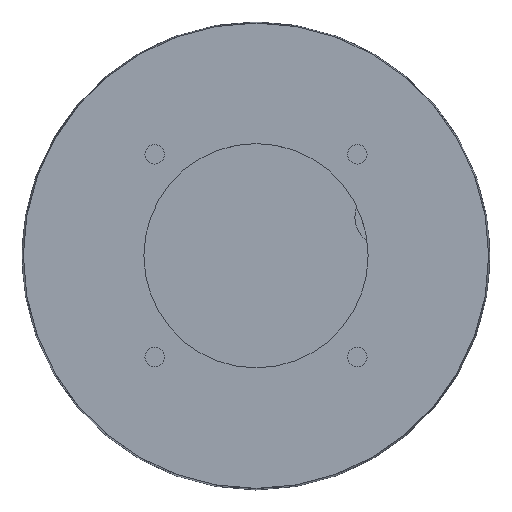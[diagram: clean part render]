
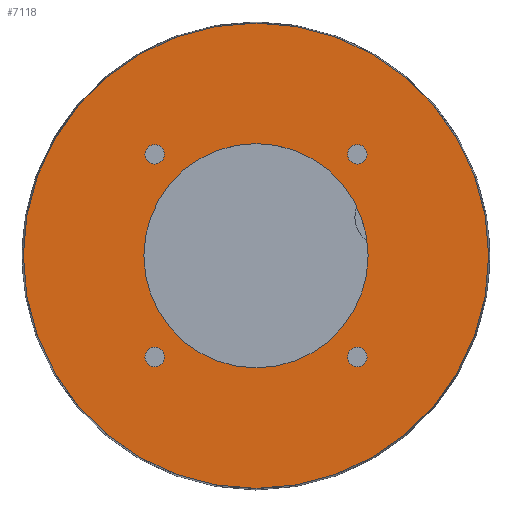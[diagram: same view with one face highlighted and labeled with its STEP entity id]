
A CAD part, top view. The second image highlights one B-rep face of the part: STEP entity #7118.
In plain terms, the highlighted planar face has unit normal (0, 0, 1) as drawn and (0, 0, -1) by its records, which use the part's own axes.
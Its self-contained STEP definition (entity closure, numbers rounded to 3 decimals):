
#6266=CARTESIAN_POINT('',(0.,0.,-48.));
#6267=DIRECTION('',(0.,0.,1.));
#6268=DIRECTION('',(1.,0.,0.));
#6269=AXIS2_PLACEMENT_3D('',#6266,#6267,#6268);
#6271=CARTESIAN_POINT('',(0.,0.,-48.));
#6272=DIRECTION('',(0.,0.,1.));
#6273=DIRECTION('',(-1.,0.,0.));
#6274=AXIS2_PLACEMENT_3D('',#6271,#6272,#6273);
#6276=CARTESIAN_POINT('',(0.,0.,-48.));
#6277=DIRECTION('',(0.,0.,-1.));
#6278=DIRECTION('',(1.,0.,0.));
#6279=AXIS2_PLACEMENT_3D('',#6276,#6277,#6278);
#6281=CARTESIAN_POINT('',(0.,0.,-48.));
#6282=DIRECTION('',(0.,0.,-1.));
#6283=DIRECTION('',(0.,-1.,0.));
#6284=AXIS2_PLACEMENT_3D('',#6281,#6282,#6283);
#6286=CARTESIAN_POINT('',(0.,0.,-48.));
#6287=DIRECTION('',(0.,0.,-1.));
#6288=DIRECTION('',(-1.,0.,0.));
#6289=AXIS2_PLACEMENT_3D('',#6286,#6287,#6288);
#6291=CARTESIAN_POINT('',(0.,0.,-48.));
#6292=DIRECTION('',(0.,0.,-1.));
#6293=DIRECTION('',(0.,1.,0.));
#6294=AXIS2_PLACEMENT_3D('',#6291,#6292,#6293);
#6296=CARTESIAN_POINT('',(-25.986,25.986,-48.));
#6297=DIRECTION('',(0.,0.,-1.));
#6298=DIRECTION('',(-1.,0.,0.));
#6299=AXIS2_PLACEMENT_3D('',#6296,#6297,#6298);
#6301=CARTESIAN_POINT('',(-25.986,25.986,-48.));
#6302=DIRECTION('',(0.,0.,-1.));
#6303=DIRECTION('',(1.,0.,0.));
#6304=AXIS2_PLACEMENT_3D('',#6301,#6302,#6303);
#6306=CARTESIAN_POINT('',(-25.986,-25.986,-48.));
#6307=DIRECTION('',(0.,0.,-1.));
#6308=DIRECTION('',(0.,-1.,0.));
#6309=AXIS2_PLACEMENT_3D('',#6306,#6307,#6308);
#6311=CARTESIAN_POINT('',(-25.986,-25.986,-48.));
#6312=DIRECTION('',(0.,0.,-1.));
#6313=DIRECTION('',(0.,1.,0.));
#6314=AXIS2_PLACEMENT_3D('',#6311,#6312,#6313);
#6316=CARTESIAN_POINT('',(25.986,-25.986,-48.));
#6317=DIRECTION('',(0.,0.,-1.));
#6318=DIRECTION('',(1.,0.,0.));
#6319=AXIS2_PLACEMENT_3D('',#6316,#6317,#6318);
#6321=CARTESIAN_POINT('',(25.986,-25.986,-48.));
#6322=DIRECTION('',(0.,0.,-1.));
#6323=DIRECTION('',(-1.,0.,0.));
#6324=AXIS2_PLACEMENT_3D('',#6321,#6322,#6323);
#6326=CARTESIAN_POINT('',(25.986,25.986,-48.));
#6327=DIRECTION('',(0.,0.,-1.));
#6328=DIRECTION('',(0.,1.,0.));
#6329=AXIS2_PLACEMENT_3D('',#6326,#6327,#6328);
#6331=CARTESIAN_POINT('',(25.986,25.986,-48.));
#6332=DIRECTION('',(0.,0.,-1.));
#6333=DIRECTION('',(0.,-1.,0.));
#6334=AXIS2_PLACEMENT_3D('',#6331,#6332,#6333);
#6483=CARTESIAN_POINT('',(-59.668,0.,-48.));
#6484=VERTEX_POINT('',#6483);
#6485=CARTESIAN_POINT('',(59.668,0.,-48.));
#6486=VERTEX_POINT('',#6485);
#6539=CARTESIAN_POINT('',(0.,-28.75,-48.));
#6540=CARTESIAN_POINT('',(-28.75,0.,-48.));
#6541=VERTEX_POINT('',#6539);
#6542=VERTEX_POINT('',#6540);
#6543=CARTESIAN_POINT('',(28.75,0.,-48.));
#6544=VERTEX_POINT('',#6543);
#6545=CARTESIAN_POINT('',(0.,28.75,-48.));
#6546=VERTEX_POINT('',#6545);
#6567=CARTESIAN_POINT('',(-28.486,25.986,-48.));
#6568=CARTESIAN_POINT('',(-23.486,25.986,-48.));
#6569=VERTEX_POINT('',#6567);
#6570=VERTEX_POINT('',#6568);
#6575=CARTESIAN_POINT('',(-25.986,-28.486,-48.));
#6576=CARTESIAN_POINT('',(-25.986,-23.486,-48.));
#6577=VERTEX_POINT('',#6575);
#6578=VERTEX_POINT('',#6576);
#6583=CARTESIAN_POINT('',(28.486,-25.986,-48.));
#6584=CARTESIAN_POINT('',(23.486,-25.986,-48.));
#6585=VERTEX_POINT('',#6583);
#6586=VERTEX_POINT('',#6584);
#6591=CARTESIAN_POINT('',(25.986,28.486,-48.));
#6592=CARTESIAN_POINT('',(25.986,23.486,-48.));
#6593=VERTEX_POINT('',#6591);
#6594=VERTEX_POINT('',#6592);
#7077=CARTESIAN_POINT('',(0.,0.,-48.));
#7078=DIRECTION('',(0.,0.,-1.));
#7079=DIRECTION('',(1.,0.,0.));
#7080=AXIS2_PLACEMENT_3D('',#7077,#7078,#7079);
#7081=PLANE('',#7080);
#7082=ORIENTED_EDGE('',*,*,#6653,.T.);
#7083=ORIENTED_EDGE('',*,*,#6674,.T.);
#7084=EDGE_LOOP('',(#7082,#7083));
#7085=FACE_OUTER_BOUND('',#7084,.F.);
#7086=ORIENTED_EDGE('',*,*,#7066,.T.);
#7087=ORIENTED_EDGE('',*,*,#7064,.T.);
#7089=ORIENTED_EDGE('',*,*,#7088,.T.);
#7091=ORIENTED_EDGE('',*,*,#7090,.T.);
#7092=EDGE_LOOP('',(#7086,#7087,#7089,#7091));
#7093=FACE_BOUND('',#7092,.F.);
#7095=ORIENTED_EDGE('',*,*,#7094,.T.);
#7097=ORIENTED_EDGE('',*,*,#7096,.T.);
#7098=EDGE_LOOP('',(#7095,#7097));
#7099=FACE_BOUND('',#7098,.F.);
#7101=ORIENTED_EDGE('',*,*,#7100,.T.);
#7103=ORIENTED_EDGE('',*,*,#7102,.T.);
#7104=EDGE_LOOP('',(#7101,#7103));
#7105=FACE_BOUND('',#7104,.F.);
#7107=ORIENTED_EDGE('',*,*,#7106,.T.);
#7109=ORIENTED_EDGE('',*,*,#7108,.T.);
#7110=EDGE_LOOP('',(#7107,#7109));
#7111=FACE_BOUND('',#7110,.F.);
#7113=ORIENTED_EDGE('',*,*,#7112,.T.);
#7115=ORIENTED_EDGE('',*,*,#7114,.T.);
#7116=EDGE_LOOP('',(#7113,#7115));
#7117=FACE_BOUND('',#7116,.F.);
#7118=ADVANCED_FACE('',(#7085,#7093,#7099,#7105,#7111,#7117),#7081,.T.);
#6270=CIRCLE('',#6269,59.668);
#6275=CIRCLE('',#6274,59.668);
#6280=CIRCLE('',#6279,28.75);
#6285=CIRCLE('',#6284,28.75);
#6290=CIRCLE('',#6289,28.75);
#6295=CIRCLE('',#6294,28.75);
#6300=CIRCLE('',#6299,2.5);
#6305=CIRCLE('',#6304,2.5);
#6310=CIRCLE('',#6309,2.5);
#6315=CIRCLE('',#6314,2.5);
#6320=CIRCLE('',#6319,2.5);
#6325=CIRCLE('',#6324,2.5);
#6330=CIRCLE('',#6329,2.5);
#6335=CIRCLE('',#6334,2.5);
#6653=EDGE_CURVE('',#6486,#6484,#6270,.T.);
#6674=EDGE_CURVE('',#6484,#6486,#6275,.T.);
#7064=EDGE_CURVE('',#6541,#6542,#6285,.T.);
#7066=EDGE_CURVE('',#6544,#6541,#6280,.T.);
#7088=EDGE_CURVE('',#6542,#6546,#6290,.T.);
#7090=EDGE_CURVE('',#6546,#6544,#6295,.T.);
#7094=EDGE_CURVE('',#6569,#6570,#6300,.T.);
#7096=EDGE_CURVE('',#6570,#6569,#6305,.T.);
#7100=EDGE_CURVE('',#6577,#6578,#6310,.T.);
#7102=EDGE_CURVE('',#6578,#6577,#6315,.T.);
#7106=EDGE_CURVE('',#6585,#6586,#6320,.T.);
#7108=EDGE_CURVE('',#6586,#6585,#6325,.T.);
#7112=EDGE_CURVE('',#6593,#6594,#6330,.T.);
#7114=EDGE_CURVE('',#6594,#6593,#6335,.T.);
